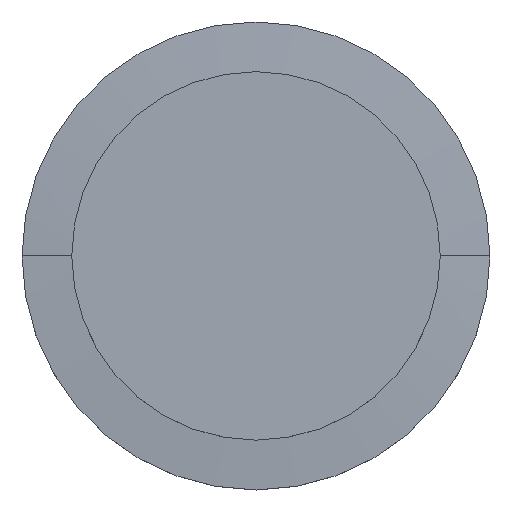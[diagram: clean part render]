
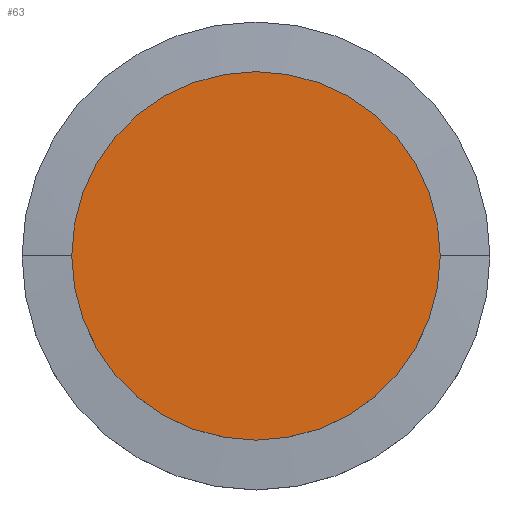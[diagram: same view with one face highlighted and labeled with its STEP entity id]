
A CAD part, top view. The second image highlights one B-rep face of the part: STEP entity #63.
In plain terms, the highlighted planar face has unit normal (0, 0, 1).
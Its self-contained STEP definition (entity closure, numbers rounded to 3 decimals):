
#63=ADVANCED_FACE('',(#83),#84,.T.);
#83=FACE_OUTER_BOUND('',#103,.T.);
#84=PLANE('',#104);
#103=EDGE_LOOP('',(#162,#163));
#104=AXIS2_PLACEMENT_3D('',#164,#165,#166);
#162=ORIENTED_EDGE('',*,*,#180,.T.);
#163=ORIENTED_EDGE('',*,*,#181,.T.);
#164=CARTESIAN_POINT('',(0.0,0.0,6.5));
#165=DIRECTION('',(0.0,0.0,1.0));
#166=DIRECTION('',(1.0,0.0,0.0));
#180=EDGE_CURVE('',#200,#204,#206,.T.);
#181=EDGE_CURVE('',#204,#200,#207,.T.);
#200=VERTEX_POINT('',#228);
#204=VERTEX_POINT('',#233);
#206=CIRCLE('',#236,10.0);
#207=CIRCLE('',#237,10.0);
#228=CARTESIAN_POINT('',(10.0,0.0,6.5));
#233=CARTESIAN_POINT('',(-10.0,0.,6.5));
#236=AXIS2_PLACEMENT_3D('',#270,#271,#272);
#237=AXIS2_PLACEMENT_3D('',#273,#274,#275);
#270=CARTESIAN_POINT('',(0.0,0.0,6.5));
#271=DIRECTION('',(0.0,0.0,1.0));
#272=DIRECTION('',(1.0,0.0,0.0));
#273=CARTESIAN_POINT('',(0.0,0.0,6.5));
#274=DIRECTION('',(0.0,0.0,1.0));
#275=DIRECTION('',(1.0,0.0,0.0));
